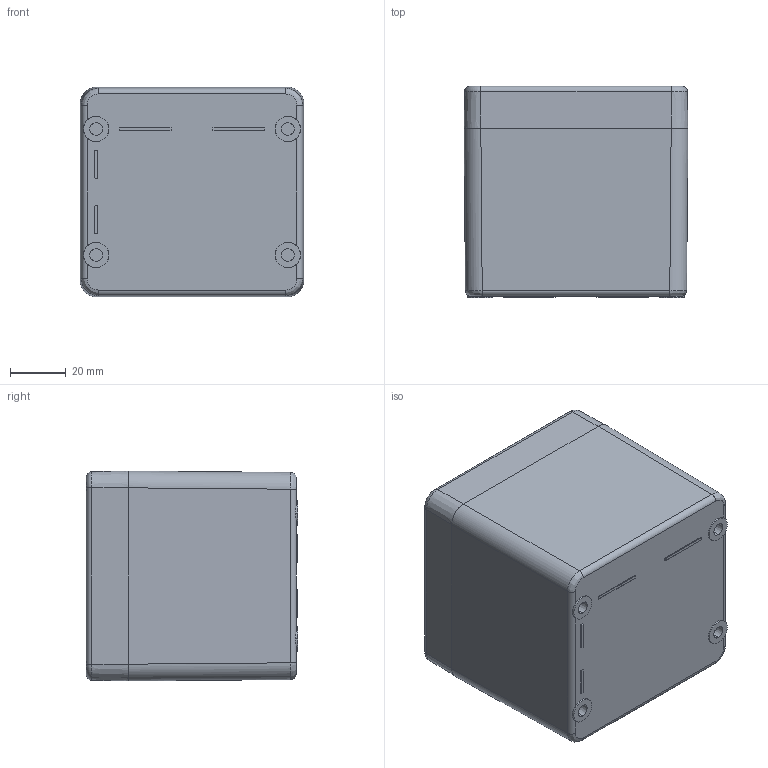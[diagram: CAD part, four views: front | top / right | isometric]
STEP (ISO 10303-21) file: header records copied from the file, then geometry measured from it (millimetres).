
FILE_DESCRIPTION((''),'2;1');
FILE_NAME('5144000050_ASM','2023-12-12T11:18:51',('silke.otte'),(''),'CREO PARAMETRIC BY PTC INC, 2022124','CREO PARAMETRIC BY PTC INC, 2022124','');
FILE_SCHEMA(('AUTOMOTIVE_DESIGN { 1 0 10303 214 1 1 1 1 }'));
Length unit declared in the file: millimetre
Products named in the file (14): 9331031000; EINPRESSMUTTER_M4; EINPRESSMUTTER_M4_AF16; EINPRESSMUTTER_M4_AF17; EINPRESSMUTTER_M4_AF18; EINPRESSMUTTER_M4_AF19; 9341031000_ASM; 9342001000; CP-DICHTUNG_35; 9614004500_ASM; 9262004000; 9261014000; 9258857000; 5144000050_ASM
Assembly tree (21 placements, depth 3):
  5144000050_ASM
    9341031000_ASM
      9331031000
      EINPRESSMUTTER_M4  x2
      EINPRESSMUTTER_M4_AF16
      EINPRESSMUTTER_M4_AF17
      EINPRESSMUTTER_M4_AF18
      EINPRESSMUTTER_M4_AF19
    9614004500_ASM
      9342001000
      CP-DICHTUNG_35
    9262004000  x4
    9261014000  x4
    9258857000  x2
Bounding box: 80 x 75.5 x 75 mm (x, y, z)
Volume: 155229.5 mm3; surface area: 82850.8 mm2
Topology: 19 solids, 29 shells, 703 faces, 3959 edges, 5440 vertices
Faces by surface type: plane 295, cone 184, cylinder 174, bspline 26, torus 24
Entity records: 32568 total; most frequent: CARTESIAN_POINT 7475, DIRECTION 3803, ORIENTED_EDGE 2326, AXIS2_PLACEMENT_3D 1321, EDGE_CURVE 1174, PRESENTATION_STYLE_ASSIGNMENT 1136, STYLED_ITEM 1125, VECTOR 1118
